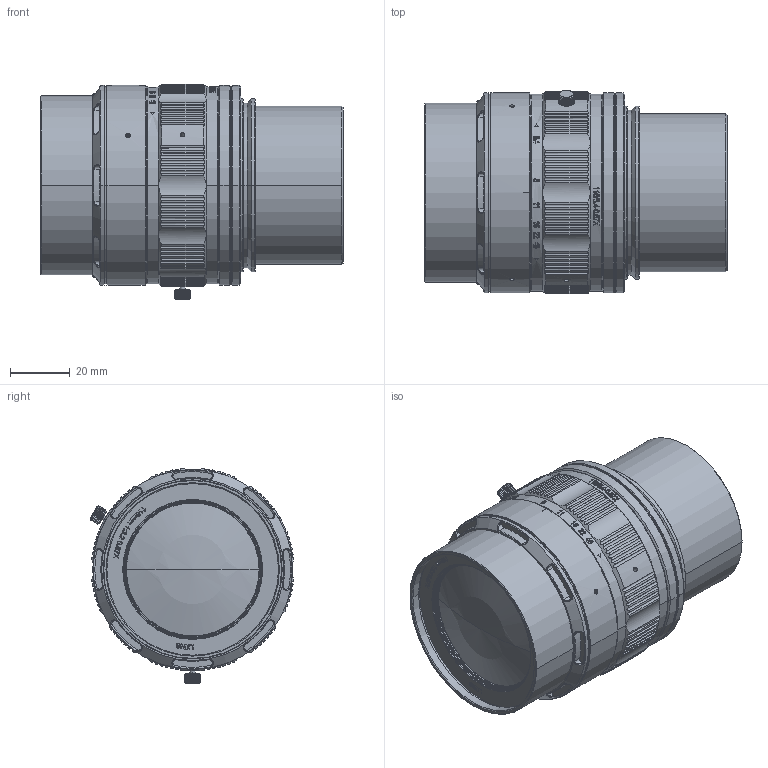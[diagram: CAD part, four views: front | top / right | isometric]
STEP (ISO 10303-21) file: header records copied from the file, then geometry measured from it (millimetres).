
FILE_DESCRIPTION((''),'2;1');
FILE_NAME('OPT-VHK116-5_4-0_67X-V1_0','2024-06-18T18:54:10',('admin'),(''),'CREO PARAMETRIC BY PTC INC, 2020354','CREO PARAMETRIC BY PTC INC, 2020354','');
FILE_SCHEMA(('AUTOMOTIVE_DESIGN { 1 0 10303 214 1 1 1 1 }'));
Length unit declared in the file: millimetre
Products named in the file (1): OPT-VHK116-5_4-0_67X-V1_0
Bounding box: 101.5 x 68.15 x 72.1 mm (x, y, z)
Volume: 279331 mm3; surface area: 40305.9 mm2
Topology: 1 solids, 11 shells, 1651 faces, 4401 edges, 2857 vertices
Faces by surface type: plane 475, cylinder 443, bspline 248, cone 239, extrusion 236, torus 6, sphere 4
Entity records: 66068 total; most frequent: CARTESIAN_POINT 27433, ORIENTED_EDGE 8766, DIRECTION 6528, EDGE_CURVE 4383, VERTEX_POINT 2856, AXIS2_PLACEMENT_3D 2272, VECTOR 1984, EDGE_LOOP 1773
